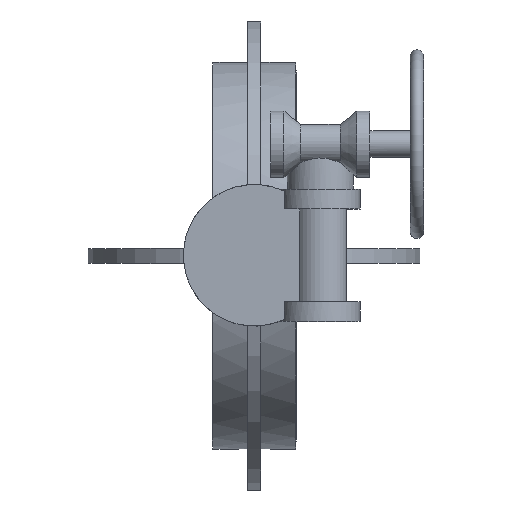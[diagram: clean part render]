
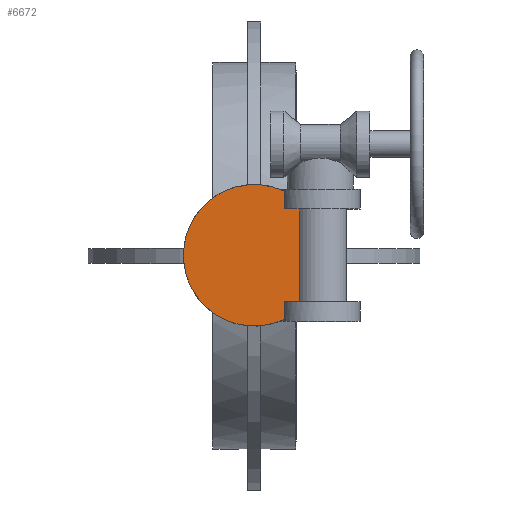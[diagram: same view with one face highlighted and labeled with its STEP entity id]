
A CAD part, top view. The second image highlights one B-rep face of the part: STEP entity #6672.
In plain terms, the highlighted planar face has unit normal (0, 0, 1).
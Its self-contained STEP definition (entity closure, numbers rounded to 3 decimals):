
#6672=ADVANCED_FACE('',(#12198),#12200,.T.);
#12198=FACE_BOUND('',#12199,.T.);
#12199=EDGE_LOOP('',(#16543,#16544,#16545,#16546,#16547,#16548));
#12200=PLANE('',#12201);
#12201=AXIS2_PLACEMENT_3D('',#12202,#12203,#12204);
#12202=CARTESIAN_POINT('',(0.,0.,610.));
#12203=DIRECTION('',(0.,0.,1.));
#12204=DIRECTION('',(0.,-1.,0.));
#16543=ORIENTED_EDGE('',*,*,#18676,.F.);
#16544=ORIENTED_EDGE('',*,*,#18696,.F.);
#16545=ORIENTED_EDGE('',*,*,#18705,.F.);
#16546=ORIENTED_EDGE('',*,*,#18690,.F.);
#16547=ORIENTED_EDGE('',*,*,#18688,.F.);
#16548=ORIENTED_EDGE('',*,*,#18706,.F.);
#18676=EDGE_CURVE('',#22191,#22193,#22194,.T.);
#18688=EDGE_CURVE('',#22212,#22214,#22215,.T.);
#18690=EDGE_CURVE('',#22214,#22217,#22218,.T.);
#18696=EDGE_CURVE('',#22225,#22191,#22227,.T.);
#18705=EDGE_CURVE('',#22217,#22225,#22236,.T.);
#18706=EDGE_CURVE('',#22193,#22212,#22237,.T.);
#22191=VERTEX_POINT('',#31652);
#22193=VERTEX_POINT('',#31657);
#22194=LINE('',#31658,#31659);
#22212=VERTEX_POINT('',#31868);
#22214=VERTEX_POINT('',#31917);
#22215=LINE('',#31918,#31919);
#22217=VERTEX_POINT('',#31925);
#22218=LINE('',#31926,#31927);
#22225=VERTEX_POINT('',#32024);
#22227=LINE('',#32029,#32030);
#22236=LINE('',#32060,#32061);
#22237=CIRCLE('',#32063,107.);
#31652=CARTESIAN_POINT('',(45.456,-70.,610.));
#31657=CARTESIAN_POINT('',(45.456,-96.864,610.));
#31658=CARTESIAN_POINT('',(45.456,-70.,610.));
#31659=VECTOR('',#31660,1.);
#31660=DIRECTION('',(0.,-1.,0.));
#31868=CARTESIAN_POINT('',(45.456,96.864,610.));
#31917=CARTESIAN_POINT('',(45.456,70.,610.));
#31918=CARTESIAN_POINT('',(45.456,96.864,610.));
#31919=VECTOR('',#31920,1.);
#31920=DIRECTION('',(0.,-1.,0.));
#31925=CARTESIAN_POINT('',(68.775,70.,610.));
#31926=CARTESIAN_POINT('',(45.456,70.,610.));
#31927=VECTOR('',#31928,1.);
#31928=DIRECTION('',(1.,0.,0.));
#32024=CARTESIAN_POINT('',(68.775,-70.,610.));
#32029=CARTESIAN_POINT('',(68.775,-70.,610.));
#32030=VECTOR('',#32031,1.);
#32031=DIRECTION('',(-1.,0.,0.));
#32060=CARTESIAN_POINT('',(68.775,70.,610.));
#32061=VECTOR('',#32062,1.);
#32062=DIRECTION('',(0.,-1.,0.));
#32063=AXIS2_PLACEMENT_3D('',#32064,#32065,#32066);
#32064=CARTESIAN_POINT('',(0.,0.,610.));
#32065=DIRECTION('',(0.,0.,-1.));
#32066=DIRECTION('',(0.425,-0.905,0.));
